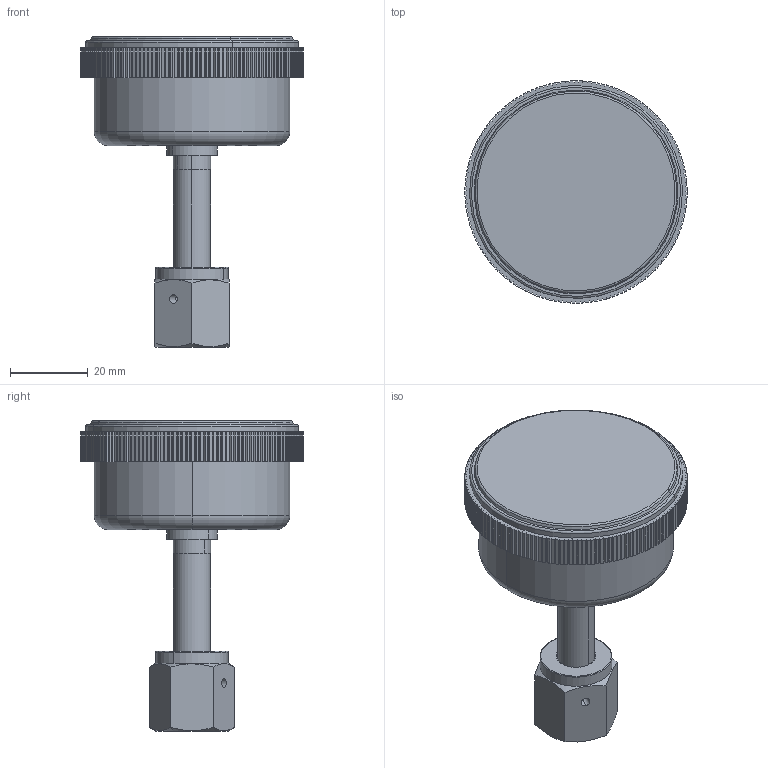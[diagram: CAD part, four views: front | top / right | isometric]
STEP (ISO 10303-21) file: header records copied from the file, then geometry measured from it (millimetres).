
FILE_DESCRIPTION (( 'STEP AP203' ), '1' );
FILE_NAME ('C20-SF.STEP', '2025-03-04T19:20:52', ( '' ), ( '' ), 'SwSTEP 2.0', 'SolidWorks 2023', '' );
FILE_SCHEMA (( 'CONFIG_CONTROL_DESIGN' ));
Length unit declared in the file: millimetre
Products named in the file (1): C20-SF
Bounding box: 57.2 x 57.2 x 79.9 mm (x, y, z)
Volume: 21448.3 mm3; surface area: 27375.2 mm2
Topology: 5 solids, 5 shells, 622 faces, 1725 edges, 1124 vertices
Faces by surface type: plane 341, cylinder 211, torus 34, cone 34, bspline 2
Entity records: 20057 total; most frequent: CARTESIAN_POINT 3644, DIRECTION 3458, ORIENTED_EDGE 3450, EDGE_CURVE 1725, LINE 1190, VECTOR 1190, AXIS2_PLACEMENT_3D 1134, VERTEX_POINT 1124
